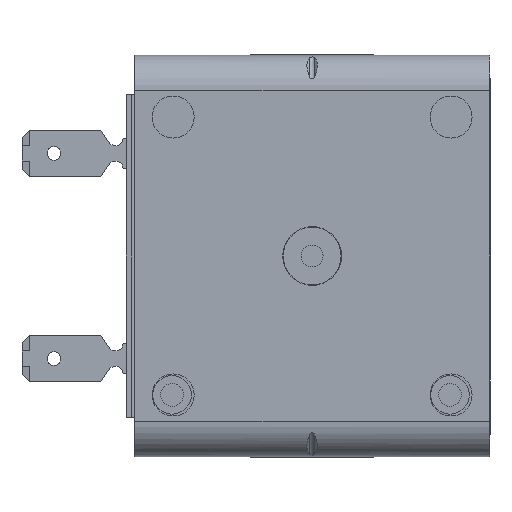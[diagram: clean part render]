
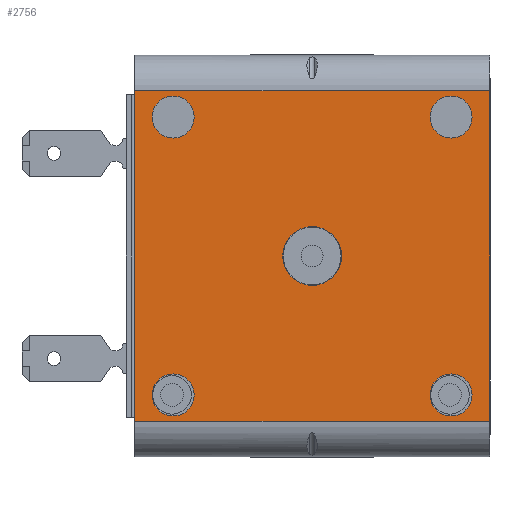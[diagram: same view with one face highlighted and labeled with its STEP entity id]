
A CAD part, front view. The second image highlights one B-rep face of the part: STEP entity #2756.
In plain terms, the highlighted planar face has unit normal (0, -1, 0).
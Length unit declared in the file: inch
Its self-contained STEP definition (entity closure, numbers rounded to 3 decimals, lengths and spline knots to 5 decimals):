
#149=CARTESIAN_POINT('',(0.7185,0.0,0.6685));
#150=VERTEX_POINT('',#149);
#160=CARTESIAN_POINT('',(0.7185,0.,-0.6685));
#161=VERTEX_POINT('',#160);
#162=CARTESIAN_POINT('',(0.7185,0.0,-0.6685));
#163=DIRECTION('',(0.0,0.0,1.0));
#164=VECTOR('',#163,1.337);
#165=LINE('',#162,#164);
#166=EDGE_CURVE('',#161,#150,#165,.T.);
#1930=CARTESIAN_POINT('',(0.119,0.0,0.));
#1931=VERTEX_POINT('',#1930);
#1932=CARTESIAN_POINT('',(0.0,0.0,0.0));
#1933=DIRECTION('',(0.0,1.0,0.0));
#1934=DIRECTION('',(-1.0,0.0,0.0));
#1935=AXIS2_PLACEMENT_3D('',#1932,#1933,#1934);
#1936=CIRCLE('',#1935,0.119);
#1937=EDGE_CURVE('',#1931,#1931,#1936,.T.);
#1958=CARTESIAN_POINT('',(0.6475,0.0,0.5625));
#1959=VERTEX_POINT('',#1958);
#1960=CARTESIAN_POINT('',(0.5625,0.0,0.5625));
#1961=DIRECTION('',(0.0,1.0,0.0));
#1962=DIRECTION('',(-1.0,0.0,0.0));
#1963=AXIS2_PLACEMENT_3D('',#1960,#1961,#1962);
#1964=CIRCLE('',#1963,0.085);
#1965=EDGE_CURVE('',#1959,#1959,#1964,.T.);
#1986=CARTESIAN_POINT('',(-0.4775,0.0,-0.5625));
#1987=VERTEX_POINT('',#1986);
#1988=CARTESIAN_POINT('',(-0.5625,0.0,-0.5625));
#1989=DIRECTION('',(0.0,1.0,0.0));
#1990=DIRECTION('',(-1.0,0.0,0.0));
#1991=AXIS2_PLACEMENT_3D('',#1988,#1989,#1990);
#1992=CIRCLE('',#1991,0.085);
#1993=EDGE_CURVE('',#1987,#1987,#1992,.T.);
#2014=CARTESIAN_POINT('',(0.6475,0.0,-0.5625));
#2015=VERTEX_POINT('',#2014);
#2016=CARTESIAN_POINT('',(0.5625,0.0,-0.5625));
#2017=DIRECTION('',(0.0,1.0,0.0));
#2018=DIRECTION('',(-1.0,0.0,0.0));
#2019=AXIS2_PLACEMENT_3D('',#2016,#2017,#2018);
#2020=CIRCLE('',#2019,0.085);
#2021=EDGE_CURVE('',#2015,#2015,#2020,.T.);
#2042=CARTESIAN_POINT('',(-0.4775,0.0,0.5625));
#2043=VERTEX_POINT('',#2042);
#2044=CARTESIAN_POINT('',(-0.5625,0.0,0.5625));
#2045=DIRECTION('',(0.0,1.0,0.0));
#2046=DIRECTION('',(-1.0,0.0,0.0));
#2047=AXIS2_PLACEMENT_3D('',#2044,#2045,#2046);
#2048=CIRCLE('',#2047,0.085);
#2049=EDGE_CURVE('',#2043,#2043,#2048,.T.);
#2595=CARTESIAN_POINT('',(-0.7185,0.,-0.6685));
#2596=VERTEX_POINT('',#2595);
#2597=CARTESIAN_POINT('',(-0.7185,0.0,-0.6685));
#2598=DIRECTION('',(1.0,0.0,0.0));
#2599=VECTOR('',#2598,1.437);
#2600=LINE('',#2597,#2599);
#2601=EDGE_CURVE('',#2596,#161,#2600,.T.);
#2661=CARTESIAN_POINT('',(-0.7185,0.0,0.6685));
#2662=VERTEX_POINT('',#2661);
#2716=CARTESIAN_POINT('',(-0.7185,0.0,0.6685));
#2717=DIRECTION('',(0.0,0.0,-1.0));
#2718=VECTOR('',#2717,1.337);
#2719=LINE('',#2716,#2718);
#2720=EDGE_CURVE('',#2662,#2596,#2719,.T.);
#2725=CARTESIAN_POINT('',(0.,0.0,0.));
#2726=DIRECTION('',(0.0,1.0,0.0));
#2727=DIRECTION('',(0.0,0.0,1.0));
#2728=AXIS2_PLACEMENT_3D('',#2725,#2726,#2727);
#2729=PLANE('',#2728);
#2730=CARTESIAN_POINT('',(-0.7185,0.0,0.6685));
#2731=DIRECTION('',(1.0,0.0,0.0));
#2732=VECTOR('',#2731,1.437);
#2733=LINE('',#2730,#2732);
#2734=EDGE_CURVE('',#2662,#150,#2733,.T.);
#2735=ORIENTED_EDGE('',*,*,#2734,.F.);
#2736=ORIENTED_EDGE('',*,*,#2720,.T.);
#2737=ORIENTED_EDGE('',*,*,#2601,.T.);
#2738=ORIENTED_EDGE('',*,*,#166,.T.);
#2739=EDGE_LOOP('',(#2735,#2736,#2737,#2738));
#2740=FACE_OUTER_BOUND('',#2739,.T.);
#2741=ORIENTED_EDGE('',*,*,#1937,.T.);
#2742=EDGE_LOOP('',(#2741));
#2743=FACE_BOUND('',#2742,.T.);
#2744=ORIENTED_EDGE('',*,*,#1965,.T.);
#2745=EDGE_LOOP('',(#2744));
#2746=FACE_BOUND('',#2745,.T.);
#2747=ORIENTED_EDGE('',*,*,#1993,.T.);
#2748=EDGE_LOOP('',(#2747));
#2749=FACE_BOUND('',#2748,.T.);
#2750=ORIENTED_EDGE('',*,*,#2021,.T.);
#2751=EDGE_LOOP('',(#2750));
#2752=FACE_BOUND('',#2751,.T.);
#2753=ORIENTED_EDGE('',*,*,#2049,.T.);
#2754=EDGE_LOOP('',(#2753));
#2755=FACE_BOUND('',#2754,.T.);
#2756=ADVANCED_FACE('',(#2740,#2743,#2746,#2749,#2752,#2755),#2729,.F.);
